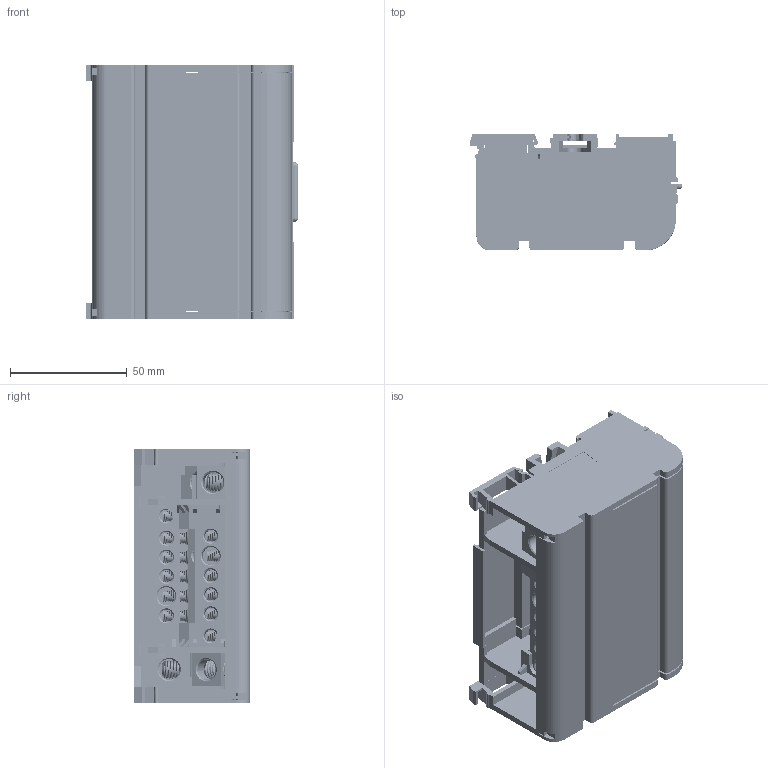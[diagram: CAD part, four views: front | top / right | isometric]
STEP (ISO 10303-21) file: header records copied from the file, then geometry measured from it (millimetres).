
FILE_DESCRIPTION(/* description */ (''),/* implementation_level */ '2;1');
FILE_NAME(/* name */ 'UK407.stp',/* time_stamp */ '2019-12-10T14:52:08+08:00',/* author */ (''),/* organization */ (''),/* preprocessor_version */ 'ST-DEVELOPER v16',/* originating_system */ 'SIEMENS PLM Software NX 10.0',/* authorisation */ '');
FILE_SCHEMA (('AUTOMOTIVE_DESIGN { 1 0 10303 214 3 1 1 1 }'));
Products named in the file (1): Admi1A6064079uz9
Bounding box: 91.01 x 50 x 109 mm (x, y, z)
Volume: 129747.5 mm3; surface area: 141096 mm2
Topology: 50 solids, 50 shells, 2143 faces, 6033 edges, 3988 vertices
Faces by surface type: plane 1524, cylinder 321, bspline 184, cone 84, torus 28, sphere 2
Full cylindrical faces by diameter (mm): 4.3 x28, 5.5 x20, 6 x4, 6.5 x24, 7.7 x4, 8 x4, 9 x4
Entity records: 185974 total; most frequent: CARTESIAN_POINT 127078, ORIENTED_EDGE 11406, DIRECTION 9323, EDGE_CURVE 5703, LINE 3921, VECTOR 3921, VERTEX_POINT 3856, AXIS2_PLACEMENT_3D 2701
